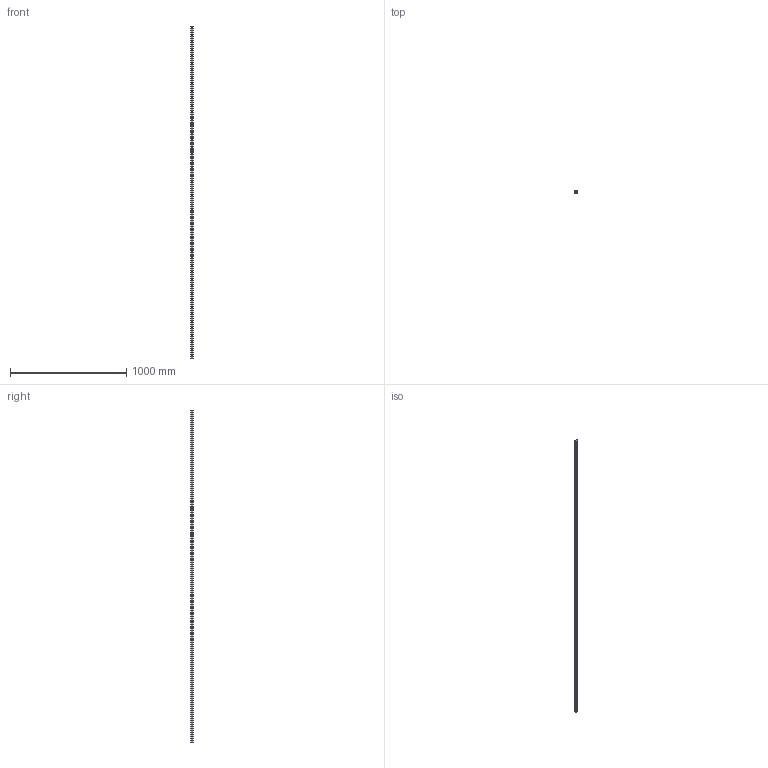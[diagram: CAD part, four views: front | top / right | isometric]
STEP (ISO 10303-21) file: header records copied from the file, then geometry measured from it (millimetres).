
FILE_DESCRIPTION (( 'STEP AP203' ), '1' );
FILE_NAME ('L1016.BRF25-2860.step', '2019-06-13T08:44:12', ( '' ), ( '' ), 'SwSTEP 2.0', 'SolidWorks 2017', '' );
FILE_SCHEMA (( 'CONFIG_CONTROL_DESIGN' ));
Length unit declared in the file: millimetre
Products named in the file (1): L1016.BRF25-2860
Bounding box: 23 x 19.2 x 2860 mm (x, y, z)
Volume: 1091955.5 mm3; surface area: 263216.9 mm2
Topology: 1 solids, 1 shells, 362 faces, 840 edges, 480 vertices
Faces by surface type: cylinder 196, cone 96, plane 70
Entity records: 9733 total; most frequent: DIRECTION 1862, CARTESIAN_POINT 1587, ORIENTED_EDGE 1488, AXIS2_PLACEMENT_3D 755, EDGE_CURVE 744, VERTEX_POINT 480, EDGE_LOOP 458, CIRCLE 392
